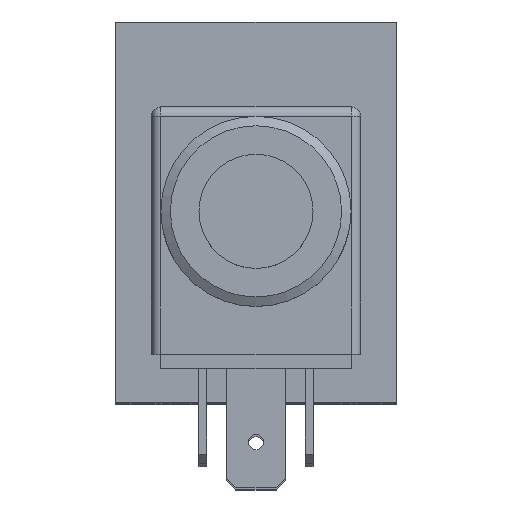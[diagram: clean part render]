
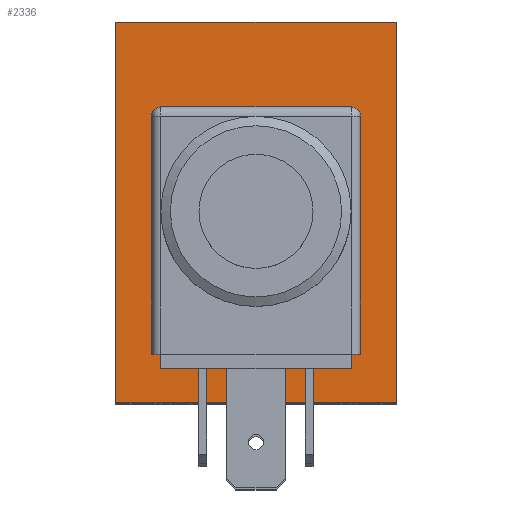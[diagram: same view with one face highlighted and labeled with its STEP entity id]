
A CAD part, top view. The second image highlights one B-rep face of the part: STEP entity #2336.
In plain terms, the highlighted planar face has unit normal (0, 0, 1).
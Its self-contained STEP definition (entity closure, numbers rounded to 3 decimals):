
#31=LINE('',#3572,#202);
#36=LINE('',#3585,#207);
#40=LINE('',#3597,#211);
#44=LINE('',#3609,#215);
#46=LINE('',#3619,#217);
#51=LINE('',#3628,#222);
#55=LINE('',#3636,#226);
#56=LINE('',#3638,#227);
#202=VECTOR('',#2899,15.);
#207=VECTOR('',#2912,15.);
#211=VECTOR('',#2924,15.);
#215=VECTOR('',#2936,15.);
#217=VECTOR('',#2948,40.);
#222=VECTOR('',#2955,29.5);
#226=VECTOR('',#2963,29.5);
#227=VECTOR('',#2966,40.);
#468=FACE_BOUND('',#764,.T.);
#469=FACE_BOUND('',#765,.T.);
#764=EDGE_LOOP('',(#1649,#1650,#1651,#1652,#1653,#1654,#1655,#1656));
#765=EDGE_LOOP('',(#1657,#1658,#1659,#1660));
#959=CIRCLE('',#2543,3.5);
#961=CIRCLE('',#2547,3.5);
#963=CIRCLE('',#2551,3.5);
#965=CIRCLE('',#2555,3.5);
#1068=VERTEX_POINT('',#3569);
#1069=VERTEX_POINT('',#3571);
#1071=VERTEX_POINT('',#3577);
#1073=VERTEX_POINT('',#3583);
#1075=VERTEX_POINT('',#3589);
#1077=VERTEX_POINT('',#3595);
#1079=VERTEX_POINT('',#3601);
#1081=VERTEX_POINT('',#3607);
#1082=VERTEX_POINT('',#3615);
#1084=VERTEX_POINT('',#3618);
#1086=VERTEX_POINT('',#3624);
#1089=VERTEX_POINT('',#3634);
#1278=EDGE_CURVE('',#1069,#1068,#31,.T.);
#1282=EDGE_CURVE('',#1068,#1071,#959,.T.);
#1285=EDGE_CURVE('',#1071,#1073,#36,.T.);
#1288=EDGE_CURVE('',#1073,#1075,#961,.T.);
#1291=EDGE_CURVE('',#1075,#1077,#40,.T.);
#1294=EDGE_CURVE('',#1077,#1079,#963,.T.);
#1297=EDGE_CURVE('',#1079,#1081,#44,.T.);
#1299=EDGE_CURVE('',#1081,#1069,#965,.T.);
#1301=EDGE_CURVE('',#1084,#1082,#46,.T.);
#1306=EDGE_CURVE('',#1086,#1084,#51,.T.);
#1310=EDGE_CURVE('',#1082,#1089,#55,.T.);
#1311=EDGE_CURVE('',#1089,#1086,#56,.T.);
#1649=ORIENTED_EDGE('',*,*,#1278,.T.);
#1650=ORIENTED_EDGE('',*,*,#1282,.T.);
#1651=ORIENTED_EDGE('',*,*,#1285,.T.);
#1652=ORIENTED_EDGE('',*,*,#1288,.T.);
#1653=ORIENTED_EDGE('',*,*,#1291,.T.);
#1654=ORIENTED_EDGE('',*,*,#1294,.T.);
#1655=ORIENTED_EDGE('',*,*,#1297,.T.);
#1656=ORIENTED_EDGE('',*,*,#1299,.T.);
#1657=ORIENTED_EDGE('',*,*,#1311,.T.);
#1658=ORIENTED_EDGE('',*,*,#1306,.T.);
#1659=ORIENTED_EDGE('',*,*,#1301,.T.);
#1660=ORIENTED_EDGE('',*,*,#1310,.T.);
#2108=PLANE('',#2561);
#2336=ADVANCED_FACE('',(#468,#469),#2108,.T.);
#2543=AXIS2_PLACEMENT_3D('',#3579,#2906,#2907);
#2547=AXIS2_PLACEMENT_3D('',#3591,#2918,#2919);
#2551=AXIS2_PLACEMENT_3D('',#3603,#2930,#2931);
#2555=AXIS2_PLACEMENT_3D('',#3612,#2941,#2942);
#2561=AXIS2_PLACEMENT_3D('',#3637,#2964,#2965);
#2899=DIRECTION('',(1.,0.,0.));
#2906=DIRECTION('center_axis',(0.,0.,-1.));
#2907=DIRECTION('ref_axis',(-1.,0.,0.));
#2912=DIRECTION('',(0.,-1.,0.));
#2918=DIRECTION('center_axis',(0.,0.,-1.));
#2919=DIRECTION('ref_axis',(0.,1.,0.));
#2924=DIRECTION('',(-1.,0.,0.));
#2930=DIRECTION('center_axis',(0.,0.,-1.));
#2931=DIRECTION('ref_axis',(1.,0.,0.));
#2936=DIRECTION('',(0.,1.,0.));
#2941=DIRECTION('center_axis',(0.,0.,-1.));
#2942=DIRECTION('ref_axis',(0.,-1.,0.));
#2948=DIRECTION('',(0.,-1.,0.));
#2955=DIRECTION('',(-1.,0.,0.));
#2963=DIRECTION('',(1.,0.,0.));
#2964=DIRECTION('center_axis',(0.,0.,1.));
#2965=DIRECTION('ref_axis',(1.,0.,0.));
#2966=DIRECTION('',(0.,1.,0.));
#3569=CARTESIAN_POINT('',(7.5,11.,50.));
#3571=CARTESIAN_POINT('',(-7.5,11.,50.));
#3572=CARTESIAN_POINT('',(-3.75,11.,50.));
#3577=CARTESIAN_POINT('',(11.,7.5,50.));
#3579=CARTESIAN_POINT('Origin',(7.5,7.5,50.));
#3583=CARTESIAN_POINT('',(11.,-7.5,50.));
#3585=CARTESIAN_POINT('',(11.,-6.25,50.));
#3589=CARTESIAN_POINT('',(7.5,-11.,50.));
#3591=CARTESIAN_POINT('Origin',(7.5,-7.5,50.));
#3595=CARTESIAN_POINT('',(-7.5,-11.,50.));
#3597=CARTESIAN_POINT('',(3.75,-11.,50.));
#3601=CARTESIAN_POINT('',(-11.,-7.5,50.));
#3603=CARTESIAN_POINT('Origin',(-7.5,-7.5,50.));
#3607=CARTESIAN_POINT('',(-11.,7.5,50.));
#3609=CARTESIAN_POINT('',(-11.,-13.75,50.));
#3612=CARTESIAN_POINT('Origin',(-7.5,7.5,50.));
#3615=CARTESIAN_POINT('',(-14.75,-20.,50.));
#3618=CARTESIAN_POINT('',(-14.75,20.,50.));
#3619=CARTESIAN_POINT('',(-14.75,-20.,50.));
#3624=CARTESIAN_POINT('',(14.75,20.,50.));
#3628=CARTESIAN_POINT('',(0.,20.,50.));
#3634=CARTESIAN_POINT('',(14.75,-20.,50.));
#3636=CARTESIAN_POINT('',(0.,-20.,50.));
#3637=CARTESIAN_POINT('Origin',(0.,-20.,50.));
#3638=CARTESIAN_POINT('',(14.75,-20.,50.));
